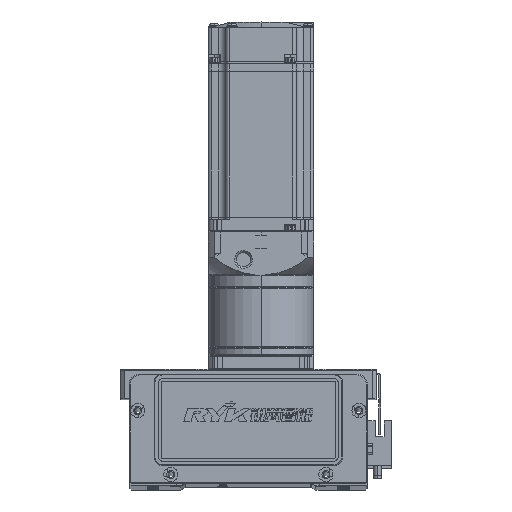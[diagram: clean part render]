
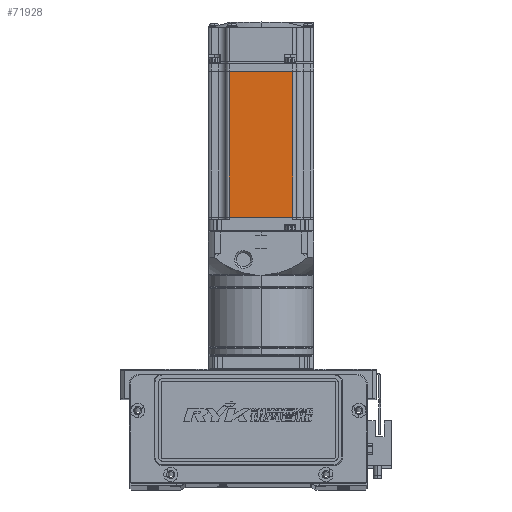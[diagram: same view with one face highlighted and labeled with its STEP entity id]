
A CAD part, top view. The second image highlights one B-rep face of the part: STEP entity #71928.
In plain terms, the highlighted planar face has unit normal (0, 0, 1).
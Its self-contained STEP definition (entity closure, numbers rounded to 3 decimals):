
#761 = ORIENTED_EDGE ( 'NONE', *, *, #11158, .F. ) ;
#2625 = CARTESIAN_POINT ( 'NONE',  ( -7.75, -18., 30. ) ) ;
#2950 = EDGE_CURVE ( 'NONE', #64554, #36603, #69837, .T. ) ;
#3565 = CARTESIAN_POINT ( 'NONE',  ( -90.45, 18., 30. ) ) ;
#5287 = ORIENTED_EDGE ( 'NONE', *, *, #61796, .T. ) ;
#6801 = VECTOR ( 'NONE', #69203, 1000. ) ;
#9124 = DIRECTION ( 'NONE',  ( 0., -1., 0. ) ) ;
#11158 = EDGE_CURVE ( 'NONE', #67272, #64554, #63480, .T. ) ;
#11534 = EDGE_CURVE ( 'NONE', #48537, #36603, #66511, .T. ) ;
#18048 = DIRECTION ( 'NONE',  ( 0., -1., 0. ) ) ;
#18652 = DIRECTION ( 'NONE',  ( -1., 0., 0. ) ) ;
#19589 = VECTOR ( 'NONE', #18652, 1000. ) ;
#19886 = ORIENTED_EDGE ( 'NONE', *, *, #2950, .F. ) ;
#22390 = CARTESIAN_POINT ( 'NONE',  ( -7.75, 0., 30. ) ) ;
#22481 = CARTESIAN_POINT ( 'NONE',  ( -90.45, -18., 30. ) ) ;
#23989 = FACE_OUTER_BOUND ( 'NONE', #28048, .T. ) ;
#28048 = EDGE_LOOP ( 'NONE', ( #761, #5287, #58136, #19886 ) ) ;
#28298 = CARTESIAN_POINT ( 'NONE',  ( -6.5, 18., 30. ) ) ;
#31678 = VECTOR ( 'NONE', #18048, 1000. ) ;
#36603 = VERTEX_POINT ( 'NONE', #22481 ) ;
#37002 = DIRECTION ( 'NONE',  ( 0., 0., 1. ) ) ;
#38050 = AXIS2_PLACEMENT_3D ( 'NONE', #60983, #37002, #66658 ) ;
#41309 = CARTESIAN_POINT ( 'NONE',  ( -6.5, -18., 30. ) ) ;
#48537 = VERTEX_POINT ( 'NONE', #3565 ) ;
#56442 = VECTOR ( 'NONE', #9124, 1000. ) ;
#58136 = ORIENTED_EDGE ( 'NONE', *, *, #11534, .T. ) ;
#60983 = CARTESIAN_POINT ( 'NONE',  ( -6.5, -25., 30. ) ) ;
#61385 = CARTESIAN_POINT ( 'NONE',  ( -90.45, 0., 30. ) ) ;
#61796 = EDGE_CURVE ( 'NONE', #67272, #48537, #73424, .T. ) ;
#63480 = LINE ( 'NONE', #22390, #31678 ) ;
#64554 = VERTEX_POINT ( 'NONE', #2625 ) ;
#66511 = LINE ( 'NONE', #61385, #56442 ) ;
#66658 = DIRECTION ( 'NONE',  ( 1., 0., 0. ) ) ;
#66898 = PLANE ( 'NONE',  #38050 ) ;
#67272 = VERTEX_POINT ( 'NONE', #72006 ) ;
#69203 = DIRECTION ( 'NONE',  ( -1., 0., 0. ) ) ;
#69837 = LINE ( 'NONE', #41309, #19589 ) ;
#71928 = ADVANCED_FACE ( 'NONE', ( #23989 ), #66898, .T. ) ;
#72006 = CARTESIAN_POINT ( 'NONE',  ( -7.75, 18., 30. ) ) ;
#73424 = LINE ( 'NONE', #28298, #6801 ) ;
